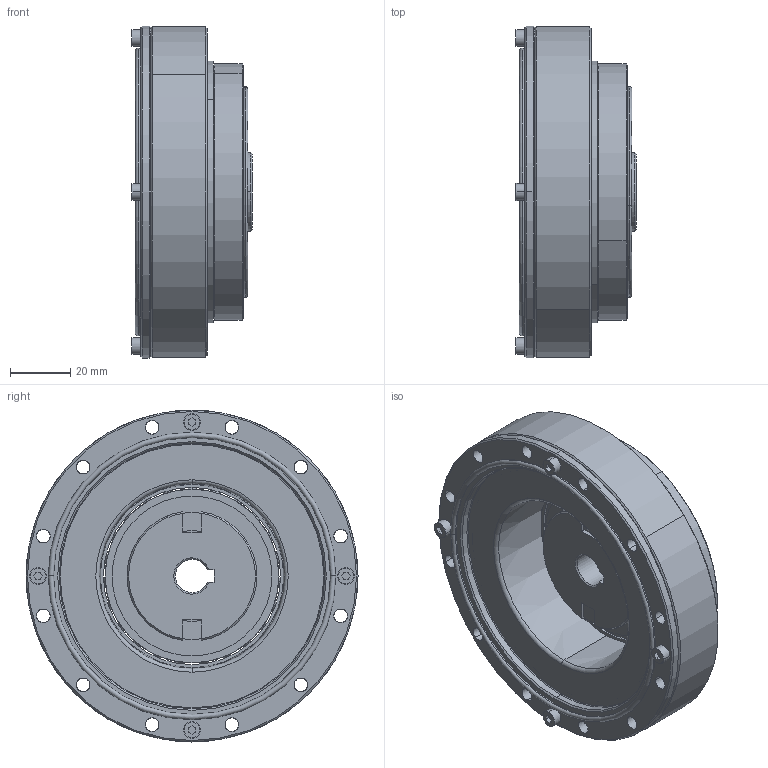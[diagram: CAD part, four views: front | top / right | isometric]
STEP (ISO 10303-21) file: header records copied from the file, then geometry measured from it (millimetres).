
FILE_DESCRIPTION (( 'STEP AP203' ), '1' );
FILE_NAME ('FHG-25-XXX-SO.STEP', '2023-01-19T03:50:25', ( '微软用户' ), ( '微软中国' ), 'SwSTEP 2.0', 'SolidWorks 2016', '' );
FILE_SCHEMA (( 'CONFIG_CONTROL_DESIGN' ));
Length unit declared in the file: millimetre
Products named in the file (1): FHG-25-XXX-SO
Bounding box: 40 x 110 x 110 mm (x, y, z)
Volume: 176802.3 mm3; surface area: 123161.3 mm2
Topology: 49 solids, 49 shells, 817 faces, 2019 edges, 1261 vertices
Faces by surface type: cylinder 349, plane 212, cone 138, torus 72, sphere 46
Entity records: 23567 total; most frequent: DIRECTION 4536, CARTESIAN_POINT 3950, ORIENTED_EDGE 3712, AXIS2_PLACEMENT_3D 1890, EDGE_CURVE 1856, VERTEX_POINT 1192, CIRCLE 1072, EDGE_LOOP 1004
